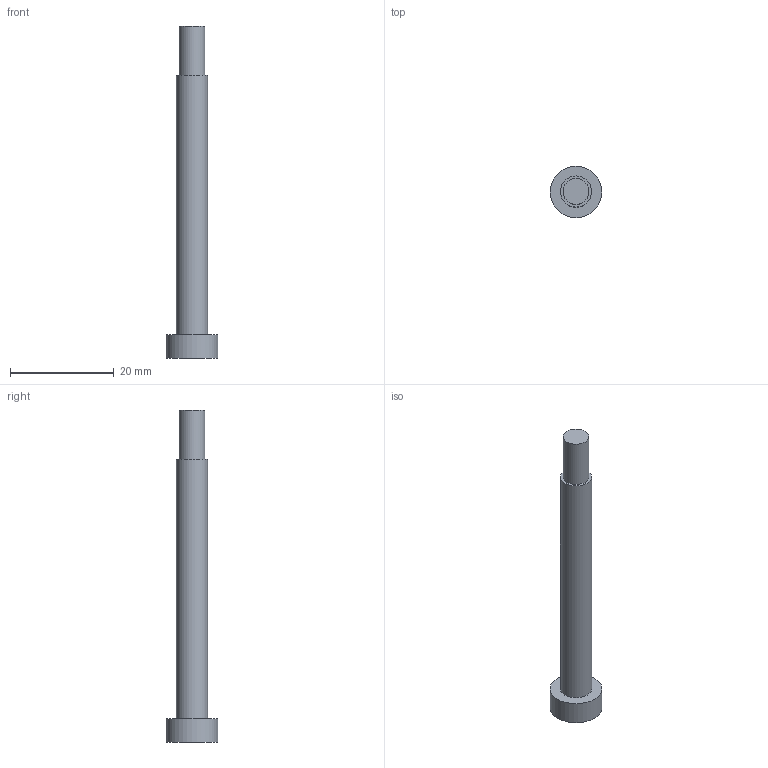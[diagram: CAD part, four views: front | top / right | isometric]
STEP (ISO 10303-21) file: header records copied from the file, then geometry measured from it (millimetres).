
FILE_DESCRIPTION(('Open CASCADE Model'),'2;1');
FILE_NAME('Open CASCADE Shape Model','2026-11-14T12:29:50',('Author'),( 'Open CASCADE'),'Open CASCADE STEP processor 8.0','Open CASCADE 8.0' ,'Unknown');
FILE_SCHEMA(('AUTOMOTIVE_DESIGN { 1 0 10303 214 1 1 1 1 }'));
Length unit declared in the file: millimetre
Products named in the file (1): Open CASCADE STEP translator 8.0 1
Bounding box: 10 x 10 x 64 mm (x, y, z)
Volume: 1934.5 mm3; surface area: 1415.8 mm2
Topology: 1 solids, 1 shells, 14 faces, 27 edges, 18 vertices
Faces by surface type: plane 11, cylinder 3
Full cylindrical faces by diameter (mm): 5 x1, 6 x1, 10 x1
Entity records: 706 total; most frequent: CARTESIAN_POINT 126, DIRECTION 105, LINE 57, VECTOR 57, ORIENTED_EDGE 54, PCURVE 54, DEFINITIONAL_REPRESENTATION 54, EDGE_CURVE 27
